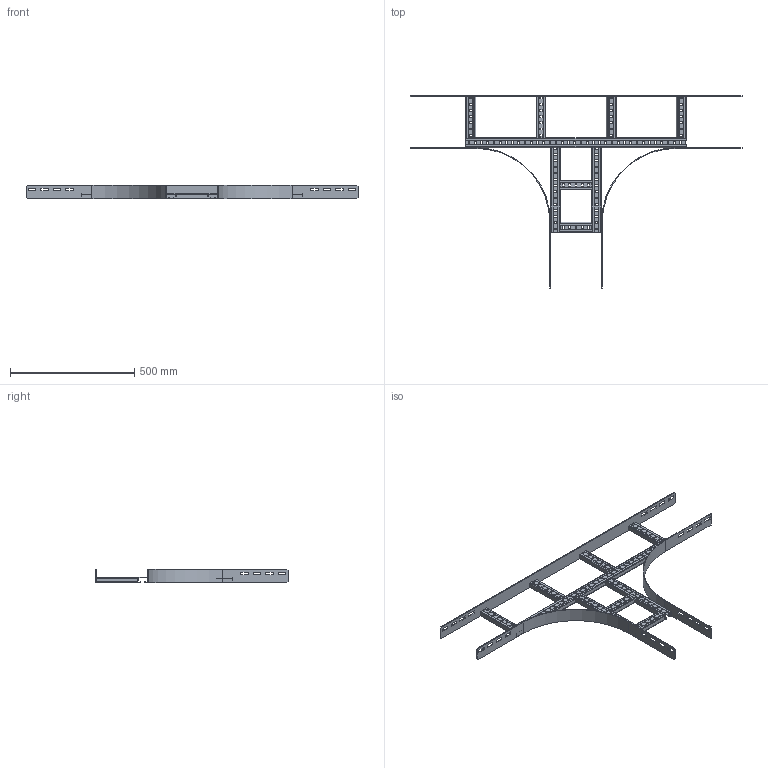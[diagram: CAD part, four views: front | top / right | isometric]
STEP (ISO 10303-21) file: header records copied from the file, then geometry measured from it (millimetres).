
FILE_DESCRIPTION(('Creo Elements/Direct Modeling STEP Export'),'2;1');
FILE_NAME('//pserver/office/EK/ME10-3D/3D-output/WPTP06-20-30-HDG.stp','2019-08-14T 9:48:15',(''),(''),'PTC Creo Elements/Direct Modeling STEP processor for AP214 (Solid Model)','PTC Creo Elements/Direct Modeling 19.0C 15-Aug-2015 (C) Parametric Technology GmbH','');
FILE_SCHEMA(('AUTOMOTIVE_DESIGN { 1 0 10303 214 1 1 1 1 }'));
Length unit declared in the file: millimetre
Products named in the file (7): WPTPS_60-200-300; WPKSP1_200-30; WPHBI_06-300.1.1; WPKSP2_300.1; WPKS20.1; WPTPS20; WPTP06-20-30-HDG
Assembly tree (12 placements, depth 2):
  WPTP06-20-30-HDG
    WPTPS20  x4
    WPKS20.1  x2
    WPKSP2_300.1  x2
    WPHBI_06-300.1.1  x2
    WPKSP1_200-30
    WPTPS_60-200-300
Bounding box: 1335 x 773 x 55 mm (x, y, z)
Volume: 890519.7 mm3; surface area: 881415.8 mm2
Topology: 12 solids, 12 shells, 910 faces, 2658 edges, 1772 vertices
Faces by surface type: plane 532, cylinder 378
Entity records: 17024 total; most frequent: CARTESIAN_POINT 2922, ORIENTED_EDGE 2916, DIRECTION 2852, EDGE_CURVE 1458, VECTOR 1048, LINE 1048, VERTEX_POINT 972, AXIS2_PLACEMENT_3D 902
